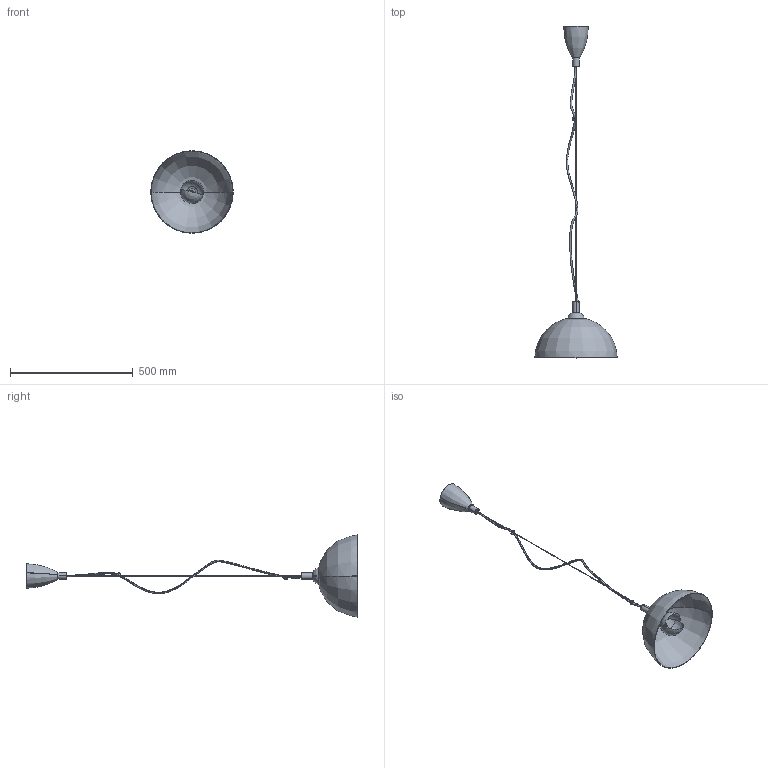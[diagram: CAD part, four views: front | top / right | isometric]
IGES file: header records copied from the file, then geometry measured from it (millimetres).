
Start section: SolidWorks IGES file using analytic representation for surfaces
Global section: file name: E:\3D lampy\Hemisphere\Hemisphere White-silver_6931,6930.IGS; native system: SolidWorks 2016; preprocessor: SolidWorks 2016; author: Asia; date: 161027.160136; units: millimetre
Bounding box: 335 x 1352.03 x 335 mm (x, y, z)
Surface area: 510325.1 mm2 (no closed solid volume)
Topology: 0 solids, 0 shells, 240 faces, 3597 edges, 3585 vertices
Faces by surface type: bspline 145, revolution 95
